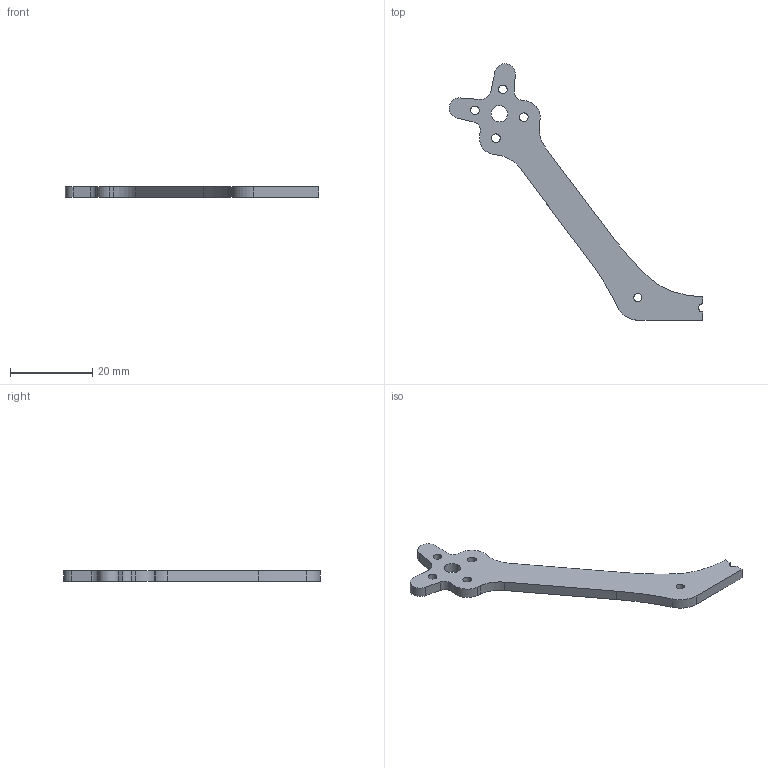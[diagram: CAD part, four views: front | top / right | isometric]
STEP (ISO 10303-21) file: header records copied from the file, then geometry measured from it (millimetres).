
FILE_DESCRIPTION(/* description */ (''),/* implementation_level */ '2;1');
FILE_NAME(/* name */ 'GoFlyPro - 3.6-Zoll - Arm - 12mm.step',/* time_stamp */ '2026-07-04T12:31:23+02:00',/* author */ (''),/* organization */ (''),/* preprocessor_version */ 'ST-DEVELOPER v20.1',/* originating_system */ 'Autodesk Translation Framework v15.8.0.0',/* authorisation */ '');
FILE_SCHEMA (('AUTOMOTIVE_DESIGN { 1 0 10303 214 3 1 1 }'));
Length unit declared in the file: millimetre
Products named in the file (1): GoFlyPro - 3.6-Zoll - Arm - 12mm
Bounding box: 61.61 x 62.38 x 2.5 mm (x, y, z)
Volume: 1832.8 mm3; surface area: 2071.1 mm2
Topology: 1 solids, 1 shells, 35 faces, 99 edges, 66 vertices
Faces by surface type: cylinder 17, plane 15, bspline 3
Full cylindrical faces by diameter (mm): 2 x1, 2.1 x4, 4 x1
Entity records: 1220 total; most frequent: CARTESIAN_POINT 216, DIRECTION 205, ORIENTED_EDGE 198, EDGE_CURVE 99, AXIS2_PLACEMENT_3D 73, VERTEX_POINT 66, LINE 59, VECTOR 59
